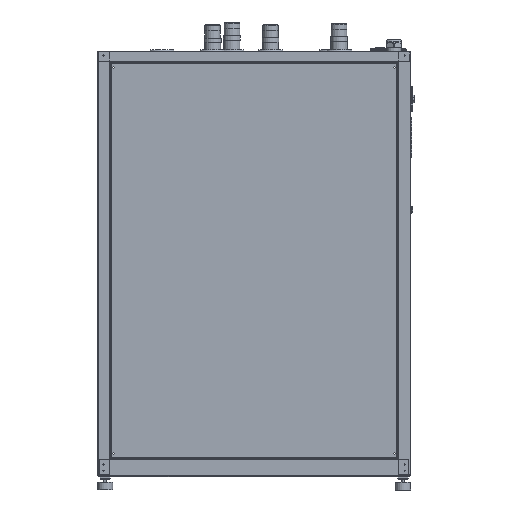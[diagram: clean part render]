
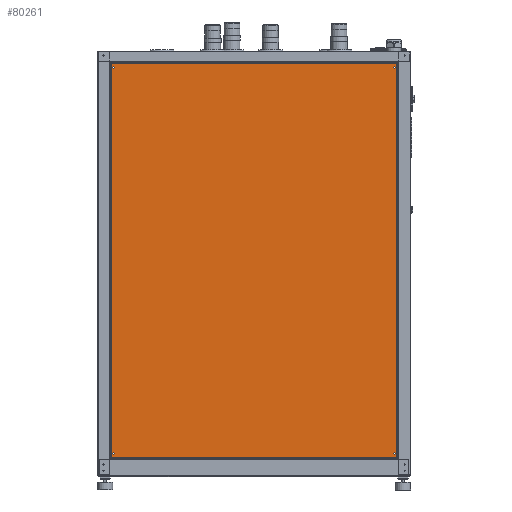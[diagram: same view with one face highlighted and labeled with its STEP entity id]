
A CAD part, front view. The second image highlights one B-rep face of the part: STEP entity #80261.
In plain terms, the highlighted planar face has unit normal (0, -1, 0).
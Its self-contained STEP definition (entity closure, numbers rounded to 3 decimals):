
#1226=FACE_BOUND('',#12321,.T.);
#1227=FACE_BOUND('',#12322,.T.);
#1228=FACE_BOUND('',#12323,.T.);
#1229=FACE_BOUND('',#12324,.T.);
#3444=CIRCLE('',#85039,4.5);
#3446=CIRCLE('',#85042,4.5);
#3448=CIRCLE('',#85045,4.5);
#3450=CIRCLE('',#85048,4.5);
#7664=FACE_OUTER_BOUND('',#12320,.T.);
#12320=EDGE_LOOP('',(#53613,#53614,#53615,#53616));
#12321=EDGE_LOOP('',(#53617));
#12322=EDGE_LOOP('',(#53618));
#12323=EDGE_LOOP('',(#53619));
#12324=EDGE_LOOP('',(#53620));
#17846=LINE('',#117247,#25081);
#17852=LINE('',#117335,#25087);
#17858=LINE('',#117421,#25093);
#17861=LINE('',#117501,#25096);
#25081=VECTOR('',#94745,10.);
#25087=VECTOR('',#94759,10.);
#25093=VECTOR('',#94773,10.);
#25096=VECTOR('',#94782,10.);
#31926=VERTEX_POINT('',#116904);
#31928=VERTEX_POINT('',#116910);
#31930=VERTEX_POINT('',#116916);
#31932=VERTEX_POINT('',#116922);
#32030=VERTEX_POINT('',#117240);
#32031=VERTEX_POINT('',#117246);
#32034=VERTEX_POINT('',#117328);
#32035=VERTEX_POINT('',#117334);
#40083=EDGE_CURVE('',#31926,#31926,#3444,.T.);
#40086=EDGE_CURVE('',#31928,#31928,#3446,.T.);
#40089=EDGE_CURVE('',#31930,#31930,#3448,.T.);
#40092=EDGE_CURVE('',#31932,#31932,#3450,.T.);
#40250=EDGE_CURVE('',#32031,#32030,#17846,.T.);
#40260=EDGE_CURVE('',#32035,#32034,#17852,.T.);
#40270=EDGE_CURVE('',#32030,#32035,#17858,.T.);
#40277=EDGE_CURVE('',#32034,#32031,#17861,.T.);
#53613=ORIENTED_EDGE('',*,*,#40250,.T.);
#53614=ORIENTED_EDGE('',*,*,#40270,.T.);
#53615=ORIENTED_EDGE('',*,*,#40260,.T.);
#53616=ORIENTED_EDGE('',*,*,#40277,.T.);
#53617=ORIENTED_EDGE('',*,*,#40083,.T.);
#53618=ORIENTED_EDGE('',*,*,#40086,.T.);
#53619=ORIENTED_EDGE('',*,*,#40089,.T.);
#53620=ORIENTED_EDGE('',*,*,#40092,.T.);
#73257=PLANE('',#85142);
#80261=ADVANCED_FACE('',(#7664,#1226,#1227,#1228,#1229),#73257,.T.);
#85039=AXIS2_PLACEMENT_3D('',#116905,#94423,#94424);
#85042=AXIS2_PLACEMENT_3D('',#116911,#94430,#94431);
#85045=AXIS2_PLACEMENT_3D('',#116917,#94437,#94438);
#85048=AXIS2_PLACEMENT_3D('',#116923,#94444,#94445);
#85142=AXIS2_PLACEMENT_3D('',#117575,#94789,#94790);
#94423=DIRECTION('center_axis',(0.,1.,0.));
#94424=DIRECTION('ref_axis',(-1.,0.,0.));
#94430=DIRECTION('center_axis',(0.,1.,0.));
#94431=DIRECTION('ref_axis',(-1.,0.,0.));
#94437=DIRECTION('center_axis',(0.,1.,0.));
#94438=DIRECTION('ref_axis',(-1.,0.,0.));
#94444=DIRECTION('center_axis',(0.,1.,0.));
#94445=DIRECTION('ref_axis',(-1.,0.,0.));
#94745=DIRECTION('',(1.,0.,0.));
#94759=DIRECTION('',(-1.,0.,0.));
#94773=DIRECTION('',(0.,0.,1.));
#94782=DIRECTION('',(0.,0.,-1.));
#94789=DIRECTION('center_axis',(0.,-1.,0.));
#94790=DIRECTION('ref_axis',(1.,0.,0.));
#116904=CARTESIAN_POINT('',(-532.5,-341.5,90.));
#116905=CARTESIAN_POINT('Origin',(-537.,-341.5,90.));
#116910=CARTESIAN_POINT('',(-532.5,-341.5,1568.));
#116911=CARTESIAN_POINT('Origin',(-537.,-341.5,1568.));
#116916=CARTESIAN_POINT('',(541.5,-341.5,1568.));
#116917=CARTESIAN_POINT('Origin',(537.,-341.5,1568.));
#116922=CARTESIAN_POINT('',(541.5,-341.5,90.));
#116923=CARTESIAN_POINT('Origin',(537.,-341.5,90.));
#117240=CARTESIAN_POINT('',(546.25,-341.5,73.75));
#117246=CARTESIAN_POINT('',(-546.25,-341.5,73.75));
#117247=CARTESIAN_POINT('',(-273.125,-341.5,73.75));
#117328=CARTESIAN_POINT('',(-546.25,-341.5,1584.25));
#117334=CARTESIAN_POINT('',(546.25,-341.5,1584.25));
#117335=CARTESIAN_POINT('',(273.125,-341.5,1584.25));
#117421=CARTESIAN_POINT('',(546.25,-341.5,451.375));
#117501=CARTESIAN_POINT('',(-546.25,-341.5,1206.625));
#117575=CARTESIAN_POINT('Origin',(0.,-341.5,
829.));
